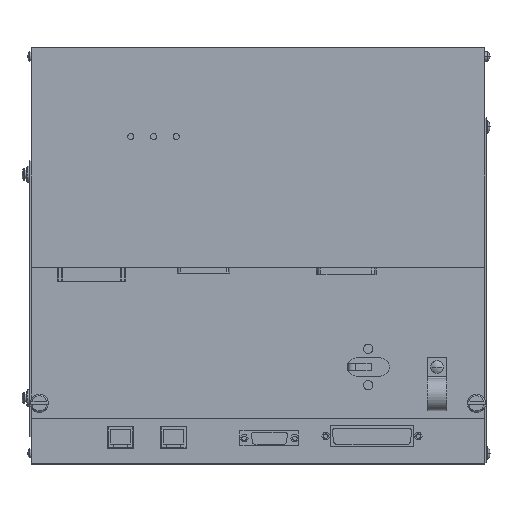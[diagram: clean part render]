
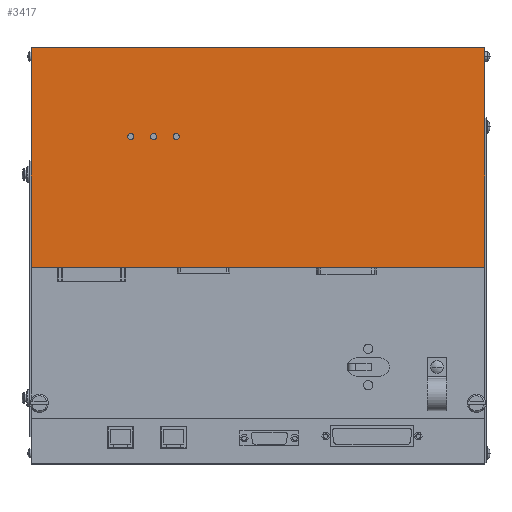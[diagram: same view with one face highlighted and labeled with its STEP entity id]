
A CAD part, top view. The second image highlights one B-rep face of the part: STEP entity #3417.
In plain terms, the highlighted planar face has unit normal (0, 0, 1).
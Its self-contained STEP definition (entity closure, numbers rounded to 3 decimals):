
#2723 = VERTEX_POINT( '', #7627 );
#3135 = EDGE_CURVE( '', #5919, #2723, #8076, .T. );
#3417 = ADVANCED_FACE( '', ( #8397, #8398, #8399, #8400 ), #8401, .T. );
#3625 = VERTEX_POINT( '', #8630 );
#4063 = VERTEX_POINT( '', #9136 );
#4757 = VERTEX_POINT( '', #9903 );
#4959 = VERTEX_POINT( '', #10124 );
#5207 = VERTEX_POINT( '', #10405 );
#5445 = EDGE_CURVE( '', #4757, #5995, #10664, .T. );
#5633 = EDGE_CURVE( '', #4063, #3625, #10883, .T. );
#5919 = VERTEX_POINT( '', #11200 );
#5995 = VERTEX_POINT( '', #11289 );
#6219 = EDGE_CURVE( '', #5207, #4959, #11537, .T. );
#6373 = EDGE_CURVE( '', #2723, #5919, #11716, .T. );
#6515 = VERTEX_POINT( '', #11876 );
#6711 = EDGE_CURVE( '', #6893, #6515, #12090, .T. );
#6763 = EDGE_CURVE( '', #3625, #6515, #12146, .T. );
#6879 = EDGE_CURVE( '', #4959, #5207, #12272, .T. );
#6893 = VERTEX_POINT( '', #12287 );
#7149 = EDGE_CURVE( '', #5995, #4757, #12582, .T. );
#7199 = EDGE_CURVE( '', #4063, #6893, #12641, .T. );
#7627 = CARTESIAN_POINT( '', ( 78., 216.3, 40. ) );
#8076 = CIRCLE( '', #13801, 2. );
#8397 = FACE_OUTER_BOUND( '', #14235, .T. );
#8398 = FACE_BOUND( '', #14236, .T. );
#8399 = FACE_BOUND( '', #14237, .T. );
#8400 = FACE_BOUND( '', #14238, .T. );
#8401 = PLANE( '', #14239 );
#8630 = CARTESIAN_POINT( '', ( -1., 275., 40. ) );
#9136 = CARTESIAN_POINT( '', ( -1., 130., 40. ) );
#9903 = CARTESIAN_POINT( '', ( 67., 216.3, 40. ) );
#10124 = CARTESIAN_POINT( '', ( 93., 216.3, 40. ) );
#10405 = CARTESIAN_POINT( '', ( 97., 216.3, 40. ) );
#10664 = CIRCLE( '', #17334, 2. );
#10883 = LINE( '', #17628, #17629 );
#11200 = CARTESIAN_POINT( '', ( 82., 216.3, 40. ) );
#11289 = CARTESIAN_POINT( '', ( 63., 216.3, 40. ) );
#11537 = CIRCLE( '', #18513, 2. );
#11716 = CIRCLE( '', #18755, 2. );
#11876 = CARTESIAN_POINT( '', ( 299., 275., 40. ) );
#12090 = LINE( '', #19283, #19284 );
#12146 = LINE( '', #19362, #19363 );
#12272 = CIRCLE( '', #19539, 2. );
#12287 = CARTESIAN_POINT( '', ( 299., 130., 40. ) );
#12582 = CIRCLE( '', #19960, 2. );
#12641 = LINE( '', #20033, #20034 );
#13801 = AXIS2_PLACEMENT_3D( '', #21031, #21032, #21033 );
#14235 = EDGE_LOOP( '', ( #21442, #21443, #21444, #21445 ) );
#14236 = EDGE_LOOP( '', ( #21446, #21447 ) );
#14237 = EDGE_LOOP( '', ( #21448, #21449 ) );
#14238 = EDGE_LOOP( '', ( #21450, #21451 ) );
#14239 = AXIS2_PLACEMENT_3D( '', #21452, #21453, #21454 );
#17334 = AXIS2_PLACEMENT_3D( '', #24004, #24005, #24006 );
#17628 = CARTESIAN_POINT( '', ( -1., 275., 40. ) );
#17629 = VECTOR( '', #24289, 1. );
#18513 = AXIS2_PLACEMENT_3D( '', #25011, #25012, #25013 );
#18755 = AXIS2_PLACEMENT_3D( '', #25259, #25260, #25261 );
#19283 = CARTESIAN_POINT( '', ( 299., 275., 40. ) );
#19284 = VECTOR( '', #25662, 1. );
#19362 = CARTESIAN_POINT( '', ( 299., 275., 40. ) );
#19363 = VECTOR( '', #25715, 1. );
#19539 = AXIS2_PLACEMENT_3D( '', #25834, #25835, #25836 );
#19960 = AXIS2_PLACEMENT_3D( '', #26224, #26225, #26226 );
#20033 = CARTESIAN_POINT( '', ( -1., 130., 40. ) );
#20034 = VECTOR( '', #26311, 1. );
#21031 = CARTESIAN_POINT( '', ( 80., 216.3, 40. ) );
#21032 = DIRECTION( '', ( 0., 0., 1. ) );
#21033 = DIRECTION( '', ( 1., 0., 0. ) );
#21442 = ORIENTED_EDGE( '', *, *, #5633, .F. );
#21443 = ORIENTED_EDGE( '', *, *, #7199, .T. );
#21444 = ORIENTED_EDGE( '', *, *, #6711, .T. );
#21445 = ORIENTED_EDGE( '', *, *, #6763, .F. );
#21446 = ORIENTED_EDGE( '', *, *, #6219, .F. );
#21447 = ORIENTED_EDGE( '', *, *, #6879, .F. );
#21448 = ORIENTED_EDGE( '', *, *, #3135, .F. );
#21449 = ORIENTED_EDGE( '', *, *, #6373, .F. );
#21450 = ORIENTED_EDGE( '', *, *, #5445, .F. );
#21451 = ORIENTED_EDGE( '', *, *, #7149, .F. );
#21452 = CARTESIAN_POINT( '', ( -1., 131., 40. ) );
#21453 = DIRECTION( '', ( 0., 0., 1. ) );
#21454 = DIRECTION( '', ( -1., 0., 0. ) );
#24004 = CARTESIAN_POINT( '', ( 65., 216.3, 40. ) );
#24005 = DIRECTION( '', ( 0., 0., 1. ) );
#24006 = DIRECTION( '', ( 1., 0., 0. ) );
#24289 = DIRECTION( '', ( 0., 1., 0. ) );
#25011 = CARTESIAN_POINT( '', ( 95., 216.3, 40. ) );
#25012 = DIRECTION( '', ( 0., 0., 1. ) );
#25013 = DIRECTION( '', ( 1., 0., 0. ) );
#25259 = CARTESIAN_POINT( '', ( 80., 216.3, 40. ) );
#25260 = DIRECTION( '', ( 0., 0., 1. ) );
#25261 = DIRECTION( '', ( 1., 0., 0. ) );
#25662 = DIRECTION( '', ( 0., 1., 0. ) );
#25715 = DIRECTION( '', ( 1., 0., 0. ) );
#25834 = CARTESIAN_POINT( '', ( 95., 216.3, 40. ) );
#25835 = DIRECTION( '', ( 0., 0., 1. ) );
#25836 = DIRECTION( '', ( 1., 0., 0. ) );
#26224 = CARTESIAN_POINT( '', ( 65., 216.3, 40. ) );
#26225 = DIRECTION( '', ( 0., 0., 1. ) );
#26226 = DIRECTION( '', ( 1., 0., 0. ) );
#26311 = DIRECTION( '', ( 1., 0., 0. ) );
